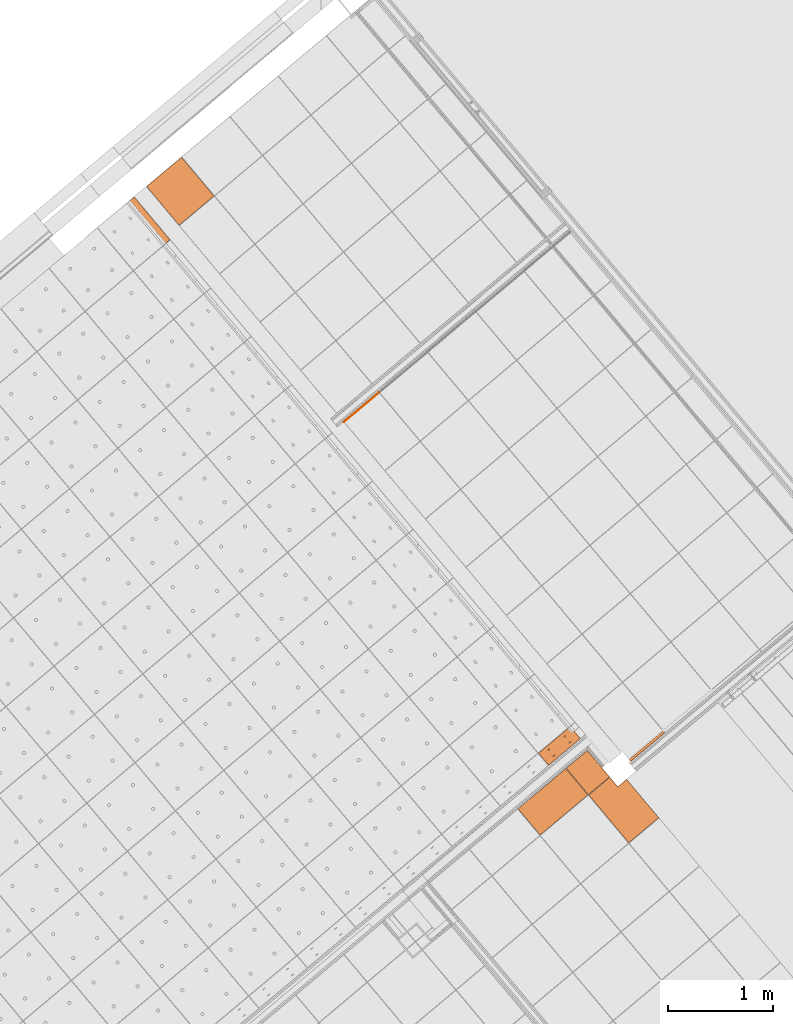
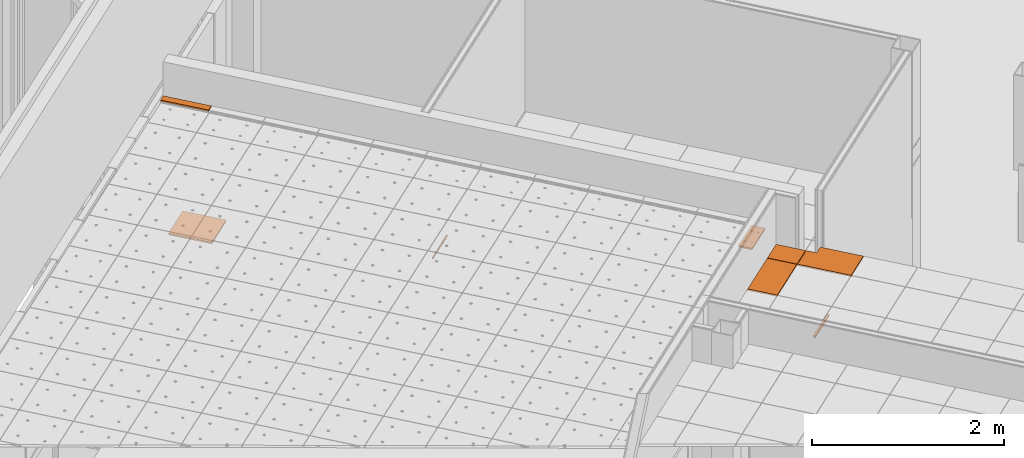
# One storey, part 326 of 338: 8 proxies, 4 elements without a shape of their own.
"""IFC2X3 building model written with IfcOpenShell, lengths in millimetres."""

from ifc_helpers import new_model, entity, si_unit, converted_unit, derived_unit, money_unit, direction, frame, origin_with_axes, place, context, subcontext, project, spatial, faceted_brep, material, type_object, element, aggregate, save


model = new_model("IFC2X3")

# Units and contexts
model_context = context("Model", 3, precision=0.01, world=origin_with_axes(), true_north=direction((0.0, 1.0)))
plan_context = context("Plan", 3, precision=0.01, world=origin_with_axes(), true_north=direction((0.0, 1.0)))
body_context = subcontext(model_context, "Body", "Model", "MODEL_VIEW")
ifc_project = project(units=[si_unit("LENGTHUNIT", "METRE", prefix="MILLI"), si_unit("AREAUNIT", "SQUARE_METRE"), si_unit("VOLUMEUNIT", "CUBIC_METRE"), converted_unit("PLANEANGLEUNIT", "DEGREE", entity("IfcPlaneAngleMeasure", 0.0174532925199), si_unit("PLANEANGLEUNIT", "RADIAN"), dimensions=[0, 0, 0, 0, 0, 0, 0]), money_unit("EUR"), converted_unit("TIMEUNIT", "Year", entity("IfcTimeMeasure", 31556926.0), si_unit("TIMEUNIT", "SECOND"), dimensions=[0, 0, 1, 0, 0, 0, 0]), si_unit("MASSUNIT", "GRAM", prefix="KILO"), si_unit("THERMODYNAMICTEMPERATUREUNIT", "DEGREE_CELSIUS"), si_unit("LUMINOUSINTENSITYUNIT", "LUMEN"), si_unit("ENERGYUNIT", "JOULE", prefix="MEGA"), derived_unit("THERMALCONDUCTANCEUNIT", [(si_unit("POWERUNIT", "WATT"), 1), (si_unit("LENGTHUNIT", "METRE"), -1), (si_unit("THERMODYNAMICTEMPERATUREUNIT", "KELVIN"), -1)]), derived_unit("SPECIFICHEATCAPACITYUNIT", [(si_unit("ENERGYUNIT", "JOULE"), 1), (si_unit("MASSUNIT", "GRAM", prefix="KILO"), -1), (si_unit("THERMODYNAMICTEMPERATUREUNIT", "KELVIN"), -1)]), derived_unit("MASSDENSITYUNIT", [(si_unit("MASSUNIT", "GRAM", prefix="KILO"), 1), (si_unit("VOLUMEUNIT", "CUBIC_METRE"), -1)])], contexts=[model_context, plan_context])

# Site, building, storey
site_placement = place(None, origin_with_axes())
site = spatial("IfcSite", under=ifc_project, at=site_placement, Name="Fortuinstraat Woensdrecht", CompositionType="ELEMENT")
building_placement = place(site_placement, origin_with_axes())
building = spatial("IfcBuilding", under=site, at=building_placement, Name="IKC Fortuna", CompositionType="ELEMENT")
storey_placement = place(building_placement, origin_with_axes())
storey = spatial("IfcBuildingStorey", under=building, at=storey_placement, Name="00 begane grond", CompositionType="ELEMENT", Elevation=0.0)

# Covering, proxy
covering_type = type_object("IfcCoveringType", Name="Curtain Wall Type", PredefinedType="CEILING")
covering_1_placement = place(storey_placement, frame((13600.915258, 7795.68497331, 2810.0), z_axis=(0.0, 0.0, 1.0), x_axis=(1.0, 0.0, 0.0)))
covering_1 = element("IfcCovering", 1, at=covering_1_placement, inside=storey, type_object=covering_type, Name="45_Plafondafwerking_P02 gec", PredefinedType="CEILING")
ifc_material = material(Name="Gipsplaat")
building_element_proxy_type_1 = type_object("IfcBuildingElementProxyType", Name="Distinct Panel 440 x 488 x 20", PredefinedType="NOTDEFINED")
proxy_1_placement = place(covering_1_placement, frame((-1486.62161376, 1771.68609853, 0.0), z_axis=(0.0, 0.0, 1.0), x_axis=(1.0, 0.0, 0.0)))
proxy_1 = element("IfcBuildingElementProxy", 2, at=proxy_1_placement, type_object=building_element_proxy_type_1, material=ifc_material, Name="__Panel-D", context=body_context, shape_type="Brep", body=[
    faceted_brep([(11.3590797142, 324.638495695, -10.0), (11.3590797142, 324.638495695, 9.99999999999), (321.679003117, -45.1862741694, 9.99999999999), (321.679003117, -45.1862741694, -10.0), (-321.679012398, 45.186288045, -10.0), (-321.679012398, 45.186288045, 9.99999999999), (-11.3590792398, -324.638501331, 9.99999999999), (-11.3590792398, -324.638501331, -10.0)], [[[0, 1, 2, 3]], [[4, 5, 1, 0]], [[1, 5, 6, 2]], [[3, 2, 6, 7]], [[0, 3, 7, 4]], [[7, 6, 5, 4]]]),
])
aggregate(covering_1, [proxy_1])

# Covering, proxies
covering_2_placement = place(storey_placement, frame((15581.2998521, 5435.5548951, 3210.0), z_axis=(0.0, 0.0, 1.0), x_axis=(1.0, 0.0, 0.0)))
covering_2 = element("IfcCovering", 3, at=covering_2_placement, inside=storey, type_object=covering_type, Name="45_Plafondafwerking_P02 v", PredefinedType="CEILING")
building_element_proxy_type_2 = type_object("IfcBuildingElementProxyType", Name="Distinct Panel 440 x 12 x 20", PredefinedType="NOTDEFINED")
proxy_2_placement = place(covering_2_placement, frame((-1739.39817252, 2072.93340289, 0.0), z_axis=(0.0, 0.0, 1.0), x_axis=(1.0, 0.0, 0.0)))
proxy_2 = element("IfcBuildingElementProxy", 4, at=proxy_2_placement, type_object=building_element_proxy_type_2, material=ifc_material, Name="__Panel-D", context=body_context, shape_type="Brep", body=[
    faceted_brep([(164.254498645, 142.424520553, -10.0), (164.254498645, 142.424520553, 9.99999999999), (168.783208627, 137.027419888, 9.99999999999), (168.783208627, 137.027419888, -10.0), (-168.783221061, -137.027394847, -10.0), (-168.783221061, -137.027394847, 9.99999999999), (-164.254526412, -142.424505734, 9.99999999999), (-164.254526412, -142.424505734, -10.0)], [[[0, 1, 2, 3]], [[4, 5, 1, 0]], [[1, 5, 6, 2]], [[3, 2, 6, 7]], [[0, 3, 7, 4]], [[7, 6, 5, 4]]]),
])
building_element_proxy_type_3 = type_object("IfcBuildingElementProxyType", Name="Distinct Panel 427 x 30 x 20", PredefinedType="NOTDEFINED")
proxy_3_placement = place(covering_2_placement, frame((978.727790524, -1156.3832583, 0.0), z_axis=(0.0, 0.0, 1.0), x_axis=(1.0, 0.0, 0.0)))
proxy_3 = element("IfcBuildingElementProxy", 5, at=proxy_3_placement, type_object=building_element_proxy_type_3, material=ifc_material, Name="__Panel-D", context=body_context, shape_type="Brep", body=[
    faceted_brep([(153.579639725, 145.12760082, -10.0), (153.579639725, 145.12760082, 9.99999999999), (169.591569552, 126.045331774, 9.99999999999), (169.591569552, 126.045331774, -10.0), (-169.591578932, -126.045332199, -10.0), (-169.591578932, -126.045332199, 9.99999999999), (-153.579638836, -145.127590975, 9.99999999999), (-153.579638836, -145.127590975, -10.0)], [[[0, 1, 2, 3]], [[4, 5, 1, 0]], [[1, 5, 6, 2]], [[3, 2, 6, 7]], [[0, 3, 7, 4]], [[7, 6, 5, 4]]]),
])
aggregate(covering_2, [proxy_2, proxy_3])

covering_3_placement = place(storey_placement, frame((15863.124366, 4456.31398675, 4619.99995334), z_axis=(0.0, 0.0, 1.0), x_axis=(1.0, 0.0, 0.0)))
covering_3 = element("IfcCovering", 6, at=covering_3_placement, inside=storey, type_object=covering_type, Name="45_Plafondafwerking_P01", PredefinedType="CEILING")
building_element_proxy_type_4 = type_object("IfcBuildingElementProxyType", Name="87 x 538 x 20", PredefinedType="NOTDEFINED")
proxy_4_placement = place(covering_3_placement, frame((-4049.62176847, 4826.14881527, 40.0000466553), z_axis=(0.0, 0.0, 1.0), x_axis=(1.0, 0.0, 0.0)))
proxy_4 = element("IfcBuildingElementProxy", 7, at=proxy_4_placement, type_object=building_element_proxy_type_4, material=ifc_material, Name="__600x641 Rockfon Krios", context=body_context, shape_type="Brep", body=[
    faceted_brep([(-139.627110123, 230.463528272, -10.0000000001), (-202.716376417, 177.525353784, -10.0000000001), (-202.716376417, 177.525353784, 9.99999999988), (-139.627110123, 230.463528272, 9.99999999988), (202.716369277, -177.525336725, -10.0000000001), (139.62712383, -230.463539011, -10.0000000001), (139.62712383, -230.463539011, 9.99999999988), (202.716369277, -177.525336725, 9.99999999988)], [[[0, 1, 2, 3]], [[0, 4, 5, 1]], [[1, 5, 6, 2]], [[3, 2, 6, 7]], [[4, 0, 3, 7]], [[5, 4, 7, 6]]]),
])
building_element_proxy_type_5 = type_object("IfcBuildingElementProxyType", Name="Main Panel 401 x 155 x 20", PredefinedType="NOTDEFINED")
proxy_5_placement = place(covering_3_placement, frame((-107.237539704, -146.358790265, 0.866536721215), z_axis=(0.0, 0.0, 1.0), x_axis=(0.642787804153, -0.766044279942, 0.0)))
proxy_5 = element("IfcBuildingElementProxy", 8, at=proxy_5_placement, type_object=building_element_proxy_type_5, material=ifc_material, Name="__600x074 Rockfon Krios", context=body_context, shape_type="Brep", body=[
    faceted_brep([(-71.9816299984, 157.756291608, -10.8528315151), (-71.9816299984, -40.1316237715, -9.78323141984), (-71.9816299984, -40.0235237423, 10.2164764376), (-71.9816299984, 157.864391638, 9.14687634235), (2.97277997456, 157.756291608, -10.8528315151), (77.9271899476, 157.756291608, -10.8528315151), (77.9271899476, -40.1316237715, -9.78323141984), (77.9271899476, -238.019539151, -8.71363132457), (2.97277997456, -238.019539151, -8.71363132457), (-71.9816299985, -238.019539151, -8.71363132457), (40.7806233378, 48.8347919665, -10.2641020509), (41.4318538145, 49.1379545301, -10.2657406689), (42.0532507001, 49.7350682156, -10.2689681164), (42.6259331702, 50.6079900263, -10.273686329), (43.1325005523, 51.7301966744, -10.2797519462), (43.5575610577, 53.0675904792, -10.2869806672), (43.8881994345, 54.5795354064, -10.2951528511), (44.1143694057, 56.2200917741, -10.3040201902), (44.2291989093, 57.9394121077, -10.3133132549), (44.2291989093, 59.6852557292, -10.3227496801), (44.1143694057, 61.4045760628, -10.3320427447), (43.8881994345, 63.0451324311, -10.3409100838), (43.5575610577, 64.5570773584, -10.3490822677), (43.1325005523, 65.8944711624, -10.3563109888), (42.6259331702, 67.0166778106, -10.3623766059), (42.0532507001, 67.8895996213, -10.3670948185), (41.4318538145, 68.4867133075, -10.370322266), (40.7806233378, 68.7898758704, -10.371960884), (40.4499849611, 68.7898758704, -10.371960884), (40.1193465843, 68.7898758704, -10.371960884), (39.4681161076, 68.4867133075, -10.370322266), (38.846719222, 67.8895996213, -10.3670948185), (38.2740367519, 67.0166778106, -10.3623766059), (37.7674693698, 65.8944711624, -10.3563109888), (37.3424088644, 64.5570773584, -10.3490822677), (37.0117704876, 63.0451324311, -10.3409100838), (36.7856005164, 61.4045760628, -10.3320427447), (36.6707710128, 59.6852557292, -10.3227496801), (36.6707710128, 57.9394121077, -10.3133132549), (36.7856005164, 56.2200917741, -10.3040201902), (37.0117704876, 54.5795354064, -10.2951528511), (37.3424088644, 53.0675904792, -10.2869806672), (37.7674693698, 51.7301966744, -10.2797519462), (38.2740367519, 50.6079900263, -10.273686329), (38.846719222, 49.7350682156, -10.2689681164), (39.4681161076, 49.1379545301, -10.2657406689), (40.1193465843, 48.8347919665, -10.2641020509), (40.7806233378, -149.053123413, -9.19450195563), (41.4318538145, -148.74996085, -9.19614057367), (42.0532507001, -148.152847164, -9.19936802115), (42.6259331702, -147.279925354, -9.20408623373), (43.1325005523, -146.157718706, -9.21015185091), (43.5575610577, -144.820324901, -9.21738057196), (43.8881994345, -143.308379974, -9.22555275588), (44.1143694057, -141.667823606, -9.23442009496), (44.2291989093, -139.948503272, -9.24371315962), (44.2291989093, -138.202659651, -9.25314958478), (44.1143694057, -136.483339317, -9.26244264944), (43.8881994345, -134.842782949, -9.27130998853), (43.5575610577, -133.330838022, -9.27948217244), (43.1325005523, -131.993444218, -9.2867108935), (42.6259331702, -130.871237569, -9.29277651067), (42.0532507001, -129.998315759, -9.29749472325), (41.4318538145, -129.401202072, -9.30072217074), (40.7806233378, -129.09803951, -9.30236078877), (40.4499849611, -129.09803951, -9.30236078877), (40.1193465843, -129.09803951, -9.30236078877), (39.4681161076, -129.401202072, -9.30072217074), (38.846719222, -129.998315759, -9.29749472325), (38.2740367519, -130.871237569, -9.29277651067), (37.7674693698, -131.993444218, -9.2867108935), (37.3424088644, -133.330838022, -9.27948217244), (37.0117704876, -134.842782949, -9.27130998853), (36.7856005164, -136.483339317, -9.26244264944), (36.6707710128, -138.202659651, -9.25314958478), (36.6707710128, -139.948503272, -9.24371315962), (36.7856005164, -141.667823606, -9.23442009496), (37.0117704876, -143.308379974, -9.22555275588), (37.3424088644, -144.820324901, -9.21738057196), (37.7674693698, -146.157718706, -9.21015185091), (38.2740367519, -147.279925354, -9.20408623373), (38.846719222, -148.152847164, -9.19936802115), (39.4681161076, -148.74996085, -9.19614057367), (40.1193465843, -149.053123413, -9.19450195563), (-34.1737866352, -149.053123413, -9.19450195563), (-33.5225561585, -148.74996085, -9.19614057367), (-32.9011592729, -148.152847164, -9.19936802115), (-32.3284768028, -147.279925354, -9.20408623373), (-31.8219094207, -146.157718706, -9.21015185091), (-31.3968489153, -144.820324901, -9.21738057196), (-31.0662105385, -143.308379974, -9.22555275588), (-30.8400405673, -141.667823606, -9.23442009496), (-30.7252110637, -139.948503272, -9.24371315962), (-30.7252110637, -138.202659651, -9.25314958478), (-30.8400405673, -136.483339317, -9.26244264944), (-31.0662105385, -134.842782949, -9.27130998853), (-31.3968489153, -133.330838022, -9.27948217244), (-31.8219094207, -131.993444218, -9.2867108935), (-32.3284768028, -130.871237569, -9.29277651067), (-32.9011592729, -129.998315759, -9.29749472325), (-33.5225561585, -129.401202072, -9.30072217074), (-34.1737866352, -129.09803951, -9.30236078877), (-34.5044250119, -129.09803951, -9.30236078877), (-34.8350633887, -129.09803951, -9.30236078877), (-35.4862938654, -129.401202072, -9.30072217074), (-36.107690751, -129.998315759, -9.29749472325), (-36.6803732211, -130.871237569, -9.29277651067), (-37.1869406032, -131.993444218, -9.2867108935), (-37.6120011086, -133.330838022, -9.27948217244), (-37.9426394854, -134.842782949, -9.27130998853), (-38.1688094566, -136.483339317, -9.26244264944), (-38.2836389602, -138.202659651, -9.25314958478), (-38.2836389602, -139.948503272, -9.24371315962), (-38.1688094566, -141.667823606, -9.23442009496), (-37.9426394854, -143.308379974, -9.22555275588), (-37.6120011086, -144.820324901, -9.21738057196), (-37.1869406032, -146.157718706, -9.21015185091), (-36.6803732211, -147.279925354, -9.20408623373), (-36.107690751, -148.152847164, -9.19936802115), (-35.4862938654, -148.74996085, -9.19614057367), (-34.8350633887, -149.053123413, -9.19450195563), (-34.1737866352, 48.8347919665, -10.2641020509), (-33.5225561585, 49.1379545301, -10.2657406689), (-32.9011592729, 49.7350682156, -10.2689681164), (-32.3284768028, 50.6079900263, -10.273686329), (-31.8219094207, 51.7301966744, -10.2797519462), (-31.3968489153, 53.0675904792, -10.2869806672), (-31.0662105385, 54.5795354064, -10.2951528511), (-30.8400405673, 56.2200917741, -10.3040201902), (-30.7252110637, 57.9394121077, -10.3133132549), (-30.7252110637, 59.6852557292, -10.3227496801), (-30.8400405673, 61.4045760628, -10.3320427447), (-31.0662105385, 63.0451324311, -10.3409100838), (-31.3968489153, 64.5570773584, -10.3490822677), (-31.8219094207, 65.8944711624, -10.3563109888), (-32.3284768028, 67.0166778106, -10.3623766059), (-32.9011592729, 67.8895996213, -10.3670948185), (-33.5225561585, 68.4867133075, -10.370322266), (-34.1737866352, 68.7898758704, -10.371960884), (-34.5044250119, 68.7898758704, -10.371960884), (-34.8350633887, 68.7898758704, -10.371960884), (-35.4862938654, 68.4867133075, -10.370322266), (-36.107690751, 67.8895996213, -10.3670948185), (-36.6803732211, 67.0166778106, -10.3623766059), (-37.1869406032, 65.8944711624, -10.3563109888), (-37.6120011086, 64.5570773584, -10.3490822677), (-37.9426394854, 63.0451324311, -10.3409100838), (-38.1688094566, 61.4045760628, -10.3320427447), (-38.2836389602, 59.6852557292, -10.3227496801), (-38.2836389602, 57.9394121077, -10.3133132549), (-38.1688094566, 56.2200917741, -10.3040201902), (-37.9426394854, 54.5795354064, -10.2951528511), (-37.6120011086, 53.0675904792, -10.2869806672), (-37.1869406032, 51.7301966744, -10.2797519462), (-36.6803732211, 50.6079900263, -10.273686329), (-36.107690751, 49.7350682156, -10.2689681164), (-35.4862938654, 49.1379545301, -10.2657406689), (-34.8350633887, 48.8347919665, -10.2641020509), (-71.9816299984, -237.911439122, 11.2860765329), (2.97277997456, -237.911439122, 11.2860765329), (77.9271899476, -237.911439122, 11.2860765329), (77.9271899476, -40.0235237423, 10.2164764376), (77.9271899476, 157.864391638, 9.14687634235), (2.97277997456, 157.864391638, 9.14687634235), (40.7806233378, 48.9428919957, 9.73560580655), (40.1193465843, 48.9428919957, 9.73560580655), (39.4681161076, 49.2460545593, 9.73396718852), (38.846719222, 49.8431682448, 9.73073974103), (38.2740367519, 50.7160900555, 9.72602152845), (37.7674693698, 51.8382967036, 9.71995591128), (37.3424088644, 53.1756905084, 9.71272719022), (37.0117704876, 54.6876354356, 9.70455500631), (36.7856005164, 56.3281918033, 9.69568766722), (36.6707710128, 58.0475121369, 9.68639460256), (36.6707710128, 59.7933557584, 9.6769581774), (36.7856005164, 61.512676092, 9.66766511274), (37.0117704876, 63.1532324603, 9.65879777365), (37.3424088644, 64.6651773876, 9.65062558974), (37.7674693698, 66.0025711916, 9.64339686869), (38.2740367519, 67.1247778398, 9.63733125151), (38.846719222, 67.9976996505, 9.63261303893), (39.4681161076, 68.5948133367, 9.62938559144), (40.1193465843, 68.8979758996, 9.62774697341), (40.4499849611, 68.8979758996, 9.62774697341), (40.7806233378, 68.8979758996, 9.62774697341), (41.4318538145, 68.5948133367, 9.62938559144), (42.0532507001, 67.9976996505, 9.63261303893), (42.6259331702, 67.1247778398, 9.63733125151), (43.1325005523, 66.0025711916, 9.64339686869), (43.5575610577, 64.6651773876, 9.65062558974), (43.8881994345, 63.1532324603, 9.65879777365), (44.1143694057, 61.512676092, 9.66766511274), (44.2291989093, 59.7933557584, 9.6769581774), (44.2291989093, 58.0475121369, 9.68639460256), (44.1143694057, 56.3281918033, 9.69568766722), (43.8881994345, 54.6876354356, 9.70455500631), (43.5575610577, 53.1756905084, 9.71272719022), (43.1325005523, 51.8382967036, 9.71995591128), (42.6259331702, 50.7160900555, 9.72602152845), (42.0532507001, 49.8431682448, 9.73073974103), (41.4318538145, 49.2460545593, 9.73396718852), (40.7806233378, -148.945023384, 10.8052059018), (40.1193465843, -148.945023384, 10.8052059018), (39.4681161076, -148.641860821, 10.8035672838), (38.846719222, -148.044747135, 10.8003398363), (38.2740367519, -147.171825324, 10.7956216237), (37.7674693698, -146.049618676, 10.7895560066), (37.3424088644, -144.712224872, 10.7823272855), (37.0117704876, -143.200279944, 10.7741551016), (36.7856005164, -141.559723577, 10.7652877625), (36.6707710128, -139.840403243, 10.7559946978), (36.6707710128, -138.094559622, 10.7465582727), (36.7856005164, -136.375239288, 10.737265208), (37.0117704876, -134.73468292, 10.7283978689), (37.3424088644, -133.222737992, 10.720225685), (37.7674693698, -131.885344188, 10.712996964), (38.2740367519, -130.76313754, 10.7069313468), (38.846719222, -129.890215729, 10.7022131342), (39.4681161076, -129.293102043, 10.6989856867), (40.1193465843, -128.98993948, 10.6973470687), (40.4499849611, -128.98993948, 10.6973470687), (40.7806233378, -128.98993948, 10.6973470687), (41.4318538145, -129.293102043, 10.6989856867), (42.0532507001, -129.890215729, 10.7022131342), (42.6259331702, -130.76313754, 10.7069313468), (43.1325005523, -131.885344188, 10.712996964), (43.5575610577, -133.222737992, 10.720225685), (43.8881994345, -134.73468292, 10.7283978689), (44.1143694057, -136.375239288, 10.737265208), (44.2291989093, -138.094559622, 10.7465582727), (44.2291989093, -139.840403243, 10.7559946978), (44.1143694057, -141.559723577, 10.7652877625), (43.8881994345, -143.200279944, 10.7741551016), (43.5575610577, -144.712224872, 10.7823272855), (43.1325005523, -146.049618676, 10.7895560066), (42.6259331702, -147.171825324, 10.7956216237), (42.0532507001, -148.044747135, 10.8003398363), (41.4318538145, -148.641860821, 10.8035672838), (-34.1737866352, -148.945023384, 10.8052059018), (-34.8350633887, -148.945023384, 10.8052059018), (-35.4862938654, -148.641860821, 10.8035672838), (-36.107690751, -148.044747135, 10.8003398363), (-36.6803732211, -147.171825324, 10.7956216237), (-37.1869406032, -146.049618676, 10.7895560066), (-37.6120011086, -144.712224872, 10.7823272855), (-37.9426394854, -143.200279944, 10.7741551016), (-38.1688094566, -141.559723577, 10.7652877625), (-38.2836389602, -139.840403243, 10.7559946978), (-38.2836389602, -138.094559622, 10.7465582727), (-38.1688094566, -136.375239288, 10.737265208), (-37.9426394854, -134.73468292, 10.7283978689), (-37.6120011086, -133.222737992, 10.720225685), (-37.1869406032, -131.885344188, 10.712996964), (-36.6803732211, -130.76313754, 10.7069313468), (-36.107690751, -129.890215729, 10.7022131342), (-35.4862938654, -129.293102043, 10.6989856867), (-34.8350633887, -128.98993948, 10.6973470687), (-34.5044250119, -128.98993948, 10.6973470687), (-34.1737866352, -128.98993948, 10.6973470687), (-33.5225561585, -129.293102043, 10.6989856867), (-32.9011592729, -129.890215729, 10.7022131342), (-32.3284768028, -130.76313754, 10.7069313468), (-31.8219094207, -131.885344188, 10.712996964), (-31.3968489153, -133.222737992, 10.720225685), (-31.0662105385, -134.73468292, 10.7283978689), (-30.8400405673, -136.375239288, 10.737265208), (-30.7252110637, -138.094559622, 10.7465582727), (-30.7252110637, -139.840403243, 10.7559946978), (-30.8400405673, -141.559723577, 10.7652877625), (-31.0662105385, -143.200279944, 10.7741551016), (-31.3968489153, -144.712224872, 10.7823272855), (-31.8219094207, -146.049618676, 10.7895560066), (-32.3284768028, -147.171825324, 10.7956216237), (-32.9011592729, -148.044747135, 10.8003398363), (-33.5225561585, -148.641860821, 10.8035672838), (-34.1737866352, 48.9428919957, 9.73560580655), (-34.8350633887, 48.9428919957, 9.73560580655), (-35.4862938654, 49.2460545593, 9.73396718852), (-36.107690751, 49.8431682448, 9.73073974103), (-36.6803732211, 50.7160900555, 9.72602152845), (-37.1869406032, 51.8382967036, 9.71995591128), (-37.6120011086, 53.1756905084, 9.71272719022), (-37.9426394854, 54.6876354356, 9.70455500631), (-38.1688094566, 56.3281918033, 9.69568766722), (-38.2836389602, 58.0475121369, 9.68639460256), (-38.2836389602, 59.7933557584, 9.6769581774), (-38.1688094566, 61.512676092, 9.66766511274), (-37.9426394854, 63.1532324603, 9.65879777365), (-37.6120011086, 64.6651773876, 9.65062558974), (-37.1869406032, 66.0025711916, 9.64339686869), (-36.6803732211, 67.1247778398, 9.63733125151), (-36.107690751, 67.9976996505, 9.63261303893), (-35.4862938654, 68.5948133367, 9.62938559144), (-34.8350633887, 68.8979758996, 9.62774697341), (-34.5044250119, 68.8979758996, 9.62774697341), (-34.1737866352, 68.8979758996, 9.62774697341), (-33.5225561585, 68.5948133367, 9.62938559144), (-32.9011592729, 67.9976996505, 9.63261303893), (-32.3284768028, 67.1247778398, 9.63733125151), (-31.8219094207, 66.0025711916, 9.64339686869), (-31.3968489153, 64.6651773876, 9.65062558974), (-31.0662105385, 63.1532324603, 9.65879777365), (-30.8400405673, 61.512676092, 9.66766511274), (-30.7252110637, 59.7933557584, 9.6769581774), (-30.7252110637, 58.0475121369, 9.68639460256), (-30.8400405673, 56.3281918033, 9.69568766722), (-31.0662105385, 54.6876354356, 9.70455500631), (-31.3968489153, 53.1756905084, 9.71272719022), (-31.8219094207, 51.8382967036, 9.71995591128), (-32.3284768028, 50.7160900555, 9.72602152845), (-32.9011592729, 49.8431682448, 9.73073974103), (-33.5225561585, 49.2460545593, 9.73396718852)], [[[0, 1, 2, 3]], [[0, 4, 5, 6, 7, 8, 9, 1], [10, 11, 12, 13, 14, 15, 16, 17, 18, 19, 20, 21, 22, 23, 24, 25, 26, 27, 28, 29, 30, 31, 32, 33, 34, 35, 36, 37, 38, 39, 40, 41, 42, 43, 44, 45, 46], [47, 48, 49, 50, 51, 52, 53, 54, 55, 56, 57, 58, 59, 60, 61, 62, 63, 64, 65, 66, 67, 68, 69, 70, 71, 72, 73, 74, 75, 76, 77, 78, 79, 80, 81, 82, 83], [84, 85, 86, 87, 88, 89, 90, 91, 92, 93, 94, 95, 96, 97, 98, 99, 100, 101, 102, 103, 104, 105, 106, 107, 108, 109, 110, 111, 112, 113, 114, 115, 116, 117, 118, 119, 120], [121, 122, 123, 124, 125, 126, 127, 128, 129, 130, 131, 132, 133, 134, 135, 136, 137, 138, 139, 140, 141, 142, 143, 144, 145, 146, 147, 148, 149, 150, 151, 152, 153, 154, 155, 156, 157]], [[1, 9, 158, 2]], [[3, 2, 158, 159, 160, 161, 162, 163], [164, 165, 166, 167, 168, 169, 170, 171, 172, 173, 174, 175, 176, 177, 178, 179, 180, 181, 182, 183, 184, 185, 186, 187, 188, 189, 190, 191, 192, 193, 194, 195, 196, 197, 198, 199, 200], [201, 202, 203, 204, 205, 206, 207, 208, 209, 210, 211, 212, 213, 214, 215, 216, 217, 218, 219, 220, 221, 222, 223, 224, 225, 226, 227, 228, 229, 230, 231, 232, 233, 234, 235, 236, 237], [238, 239, 240, 241, 242, 243, 244, 245, 246, 247, 248, 249, 250, 251, 252, 253, 254, 255, 256, 257, 258, 259, 260, 261, 262, 263, 264, 265, 266, 267, 268, 269, 270, 271, 272, 273, 274], [275, 276, 277, 278, 279, 280, 281, 282, 283, 284, 285, 286, 287, 288, 289, 290, 291, 292, 293, 294, 295, 296, 297, 298, 299, 300, 301, 302, 303, 304, 305, 306, 307, 308, 309, 310, 311]], [[4, 0, 3, 163]], [[5, 4, 163, 162]], [[6, 5, 162, 161]], [[7, 6, 161, 160]], [[8, 7, 160, 159]], [[9, 8, 159, 158]], [[11, 10, 164, 200]], [[12, 11, 200, 199]], [[13, 12, 199, 198]], [[14, 13, 198, 197]], [[15, 14, 197, 196]], [[16, 15, 196, 195]], [[17, 16, 195, 194]], [[18, 17, 194, 193]], [[19, 18, 193, 192]], [[20, 19, 192, 191]], [[21, 20, 191, 190]], [[22, 21, 190, 189]], [[23, 22, 189, 188]], [[24, 23, 188, 187]], [[25, 24, 187, 186]], [[26, 25, 186, 185]], [[27, 26, 185, 184]], [[28, 27, 184, 183]], [[29, 28, 183, 182]], [[30, 29, 182, 181]], [[31, 30, 181, 180]], [[32, 31, 180, 179]], [[33, 32, 179, 178]], [[34, 33, 178, 177]], [[35, 34, 177, 176]], [[36, 35, 176, 175]], [[37, 36, 175, 174]], [[38, 37, 174, 173]], [[39, 38, 173, 172]], [[40, 39, 172, 171]], [[41, 40, 171, 170]], [[42, 41, 170, 169]], [[43, 42, 169, 168]], [[44, 43, 168, 167]], [[45, 44, 167, 166]], [[46, 45, 166, 165]], [[10, 46, 165, 164]], [[48, 47, 201, 237]], [[49, 48, 237, 236]], [[50, 49, 236, 235]], [[51, 50, 235, 234]], [[52, 51, 234, 233]], [[53, 52, 233, 232]], [[54, 53, 232, 231]], [[55, 54, 231, 230]], [[56, 55, 230, 229]], [[57, 56, 229, 228]], [[58, 57, 228, 227]], [[59, 58, 227, 226]], [[60, 59, 226, 225]], [[61, 60, 225, 224]], [[62, 61, 224, 223]], [[63, 62, 223, 222]], [[64, 63, 222, 221]], [[65, 64, 221, 220]], [[66, 65, 220, 219]], [[67, 66, 219, 218]], [[68, 67, 218, 217]], [[69, 68, 217, 216]], [[70, 69, 216, 215]], [[71, 70, 215, 214]], [[72, 71, 214, 213]], [[73, 72, 213, 212]], [[74, 73, 212, 211]], [[75, 74, 211, 210]], [[76, 75, 210, 209]], [[77, 76, 209, 208]], [[78, 77, 208, 207]], [[79, 78, 207, 206]], [[80, 79, 206, 205]], [[81, 80, 205, 204]], [[82, 81, 204, 203]], [[83, 82, 203, 202]], [[47, 83, 202, 201]], [[85, 84, 238, 274]], [[86, 85, 274, 273]], [[87, 86, 273, 272]], [[88, 87, 272, 271]], [[89, 88, 271, 270]], [[90, 89, 270, 269]], [[91, 90, 269, 268]], [[92, 91, 268, 267]], [[93, 92, 267, 266]], [[94, 93, 266, 265]], [[95, 94, 265, 264]], [[96, 95, 264, 263]], [[97, 96, 263, 262]], [[98, 97, 262, 261]], [[99, 98, 261, 260]], [[100, 99, 260, 259]], [[101, 100, 259, 258]], [[102, 101, 258, 257]], [[103, 102, 257, 256]], [[104, 103, 256, 255]], [[105, 104, 255, 254]], [[106, 105, 254, 253]], [[107, 106, 253, 252]], [[108, 107, 252, 251]], [[109, 108, 251, 250]], [[110, 109, 250, 249]], [[111, 110, 249, 248]], [[112, 111, 248, 247]], [[113, 112, 247, 246]], [[114, 113, 246, 245]], [[115, 114, 245, 244]], [[116, 115, 244, 243]], [[117, 116, 243, 242]], [[118, 117, 242, 241]], [[119, 118, 241, 240]], [[120, 119, 240, 239]], [[84, 120, 239, 238]], [[122, 121, 275, 311]], [[123, 122, 311, 310]], [[124, 123, 310, 309]], [[125, 124, 309, 308]], [[126, 125, 308, 307]], [[127, 126, 307, 306]], [[128, 127, 306, 305]], [[129, 128, 305, 304]], [[130, 129, 304, 303]], [[131, 130, 303, 302]], [[132, 131, 302, 301]], [[133, 132, 301, 300]], [[134, 133, 300, 299]], [[135, 134, 299, 298]], [[136, 135, 298, 297]], [[137, 136, 297, 296]], [[138, 137, 296, 295]], [[139, 138, 295, 294]], [[140, 139, 294, 293]], [[141, 140, 293, 292]], [[142, 141, 292, 291]], [[143, 142, 291, 290]], [[144, 143, 290, 289]], [[145, 144, 289, 288]], [[146, 145, 288, 287]], [[147, 146, 287, 286]], [[148, 147, 286, 285]], [[149, 148, 285, 284]], [[150, 149, 284, 283]], [[151, 150, 283, 282]], [[152, 151, 282, 281]], [[153, 152, 281, 280]], [[154, 153, 280, 279]], [[155, 154, 279, 278]], [[156, 155, 278, 277]], [[157, 156, 277, 276]], [[121, 157, 276, 275]]]),
])
aggregate(covering_3, [proxy_4, proxy_5])

covering_4_placement = place(storey_placement, frame((19821.8074512, -1204.73183435, 4460.0), z_axis=(0.0, 0.0, 1.0), x_axis=(1.0, 0.0, 0.0)))
covering_4 = element("IfcCovering", 9, at=covering_4_placement, inside=storey, type_object=covering_type, Name="45_Plafondafwerking_P04", PredefinedType="CEILING")
building_element_proxy_type_6 = type_object("IfcBuildingElementProxyType", Name="Distinct Panel 110 x 119 x 20", PredefinedType="NOTDEFINED")
proxy_6_placement = place(covering_4_placement, frame((-3500.82844467, 4973.78021833, 0.0), z_axis=(0.0, 0.0, 1.0), x_axis=(1.0, 0.0, 0.0)))
proxy_6 = element("IfcBuildingElementProxy", 10, at=proxy_6_placement, type_object=building_element_proxy_type_6, material=ifc_material, Name="__Panel-D", context=body_context, shape_type="Brep", body=[
    faceted_brep([(-114.018372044, 213.804384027, -10.0), (-114.018372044, 213.804384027, 9.99999999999), (-37.7061445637, 122.859039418, 9.99999999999), (-37.7061445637, 122.859039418, -10.0), (-315.398207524, 44.8265779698, -10.0), (-315.398207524, 44.8265779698, 9.99999999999), (67.0598430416, -410.969055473, 9.99999999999), (352.79619278, -171.207715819, 9.99999999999), (46.6503998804, 193.642613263, 9.99999999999), (46.6503998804, 193.642613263, -10.0), (352.79619278, -171.207715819, -10.0), (67.0598430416, -410.969055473, -10.0)], [[[0, 1, 2, 3]], [[4, 5, 1, 0]], [[1, 5, 6, 7, 8, 2]], [[3, 2, 8, 9]], [[0, 3, 9, 10, 11, 4]], [[11, 6, 5, 4]], [[10, 7, 6, 11]], [[9, 8, 7, 10]]]),
])
building_element_proxy_type_7 = type_object("IfcBuildingElementProxyType", Name="Distinct Panel 600 x 333 x 20", PredefinedType="NOTDEFINED")
proxy_7_placement = place(covering_4_placement, frame((-4156.4548609, 4953.46847378, 0.0), z_axis=(0.0, 0.0, 1.0), x_axis=(1.0, 0.0, 0.0)))
proxy_7 = element("IfcBuildingElementProxy", 11, at=proxy_7_placement, type_object=building_element_proxy_type_7, material=ifc_material, Name="__Panel-D", context=body_context, shape_type="Brep", body=[
    faceted_brep([(122.61238312, 316.704059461, -10.0), (122.61238312, 316.704059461, 9.99999999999), (333.184048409, 65.7546012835, 9.99999999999), (333.184048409, 65.7546012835, -10.0), (-333.184077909, -65.7545559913, -10.0), (-333.184077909, -65.7545559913, 9.99999999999), (-122.612352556, -316.704094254, 9.99999999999), (-122.612352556, -316.704094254, -10.0)], [[[0, 1, 2, 3]], [[4, 5, 1, 0]], [[1, 5, 6, 2]], [[3, 2, 6, 7]], [[0, 3, 7, 4]], [[7, 6, 5, 4]]]),
])
building_element_proxy_type_8 = type_object("IfcBuildingElementProxyType", Name="Distinct Panel 268 x 333 x 20", PredefinedType="NOTDEFINED")
proxy_8_placement = place(covering_4_placement, frame((-3824.03646715, 5232.40067192, 0.0), z_axis=(0.0, 0.0, 1.0), x_axis=(1.0, 0.0, 0.0)))
proxy_8 = element("IfcBuildingElementProxy", 12, at=proxy_8_placement, type_object=building_element_proxy_type_8, material=ifc_material, Name="__Panel-D", context=body_context, shape_type="Brep", body=[
    faceted_brep([(-4.59580106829, 209.963712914, -10.0), (-4.59580106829, 209.963712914, 10.0), (205.975713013, -40.9858439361, 10.0), (205.975713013, -40.9858439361, -10.0), (-205.975790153, 40.9857880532, -10.0), (-205.975790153, 40.9857880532, 10.0), (4.59586337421, -209.963654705, 10.0), (4.59586337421, -209.963654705, -10.0)], [[[0, 1, 2, 3]], [[4, 5, 1, 0]], [[1, 5, 6, 2]], [[3, 2, 6, 7]], [[0, 3, 7, 4]], [[7, 6, 5, 4]]]),
])
aggregate(covering_4, [proxy_6, proxy_7, proxy_8])

save(model, "model.ifc")
